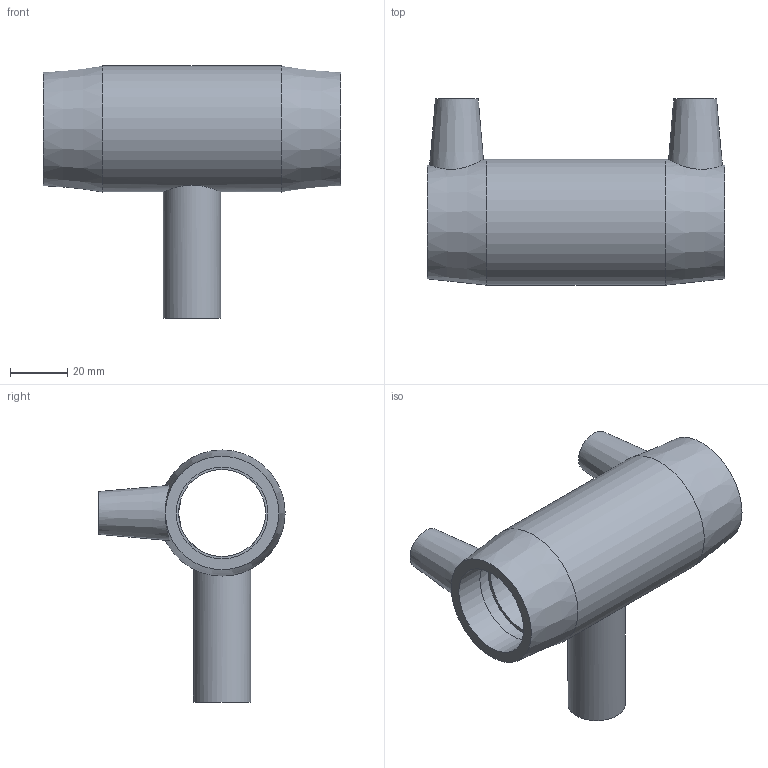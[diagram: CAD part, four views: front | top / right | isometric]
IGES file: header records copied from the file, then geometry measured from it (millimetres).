
Global section: file name: 491404032020.ipt; native system: Autodesk Inventor 2015; preprocessor: unknown; author: KIM; date: 20171106.093835; units: millimetre
Bounding box: 104 x 65 x 88 mm (x, y, z)
Volume: 81904.6 mm3; surface area: 34192.8 mm2
Topology: 1 solids, 1 shells, 31 faces, 72 edges, 52 vertices
Faces by surface type: plane 13, revolution 10, cylinder 4, cone 4
Full cylindrical faces by diameter (mm): 4 x2, 20 x1, 44 x1
